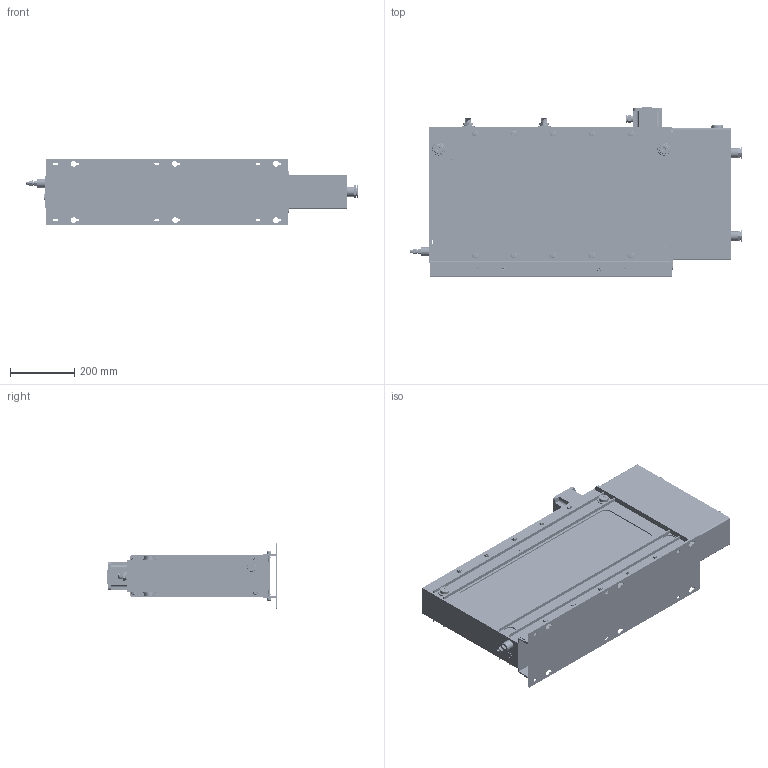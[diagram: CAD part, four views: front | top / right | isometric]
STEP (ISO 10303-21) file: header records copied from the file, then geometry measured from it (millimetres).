
FILE_DESCRIPTION (( 'STEP AP214' ), '1' );
FILE_NAME ('ðñìê1ñ-IP65.STEP', '2024-04-03T08:48:24', ( '' ), ( '' ), 'SwSTEP 2.0', 'SolidWorks 2020', '' );
FILE_SCHEMA (( 'AUTOMOTIVE_DESIGN' ));
Length unit declared in the file: millimetre
Products named in the file (1): ðñìê1ñ-IP65
Bounding box: 1034.58 x 527.11 x 207 mm (x, y, z)
Volume: 35518736.2 mm3; surface area: 2759211.6 mm2
Topology: 96 solids, 223 shells, 4742 faces, 11487 edges, 7318 vertices
Faces by surface type: plane 2283, cylinder 1704, torus 352, cone 260, bspline 103, sphere 40
Entity records: 241201 total; most frequent: CARTESIAN_POINT 81292, ORIENTED_EDGE 22850, DIRECTION 22403, EDGE_CURVE 11425, AXIS2_PLACEMENT_3D 8064, VERTEX_POINT 7318, VECTOR 6275, LINE 6275
